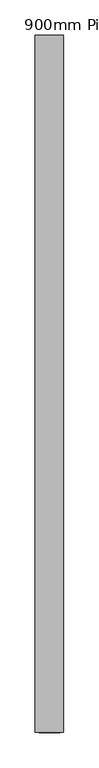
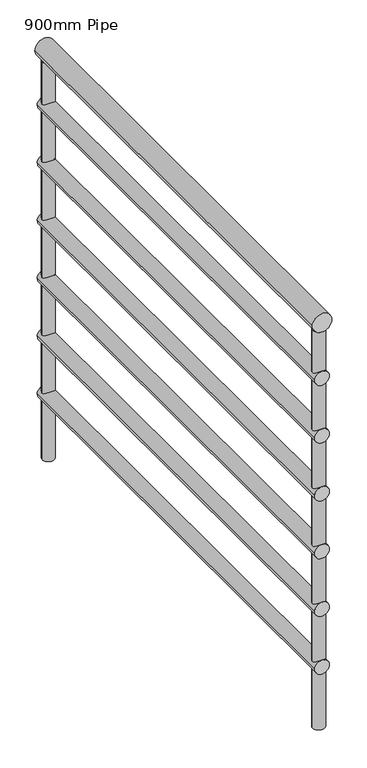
"""IFC4 building model written with IfcOpenShell, lengths in millimetres: railing geometry, 900mm Pipe."""

from ifc_helpers import new_model, si_unit, point, frame, frame_2d, origin, place, context, project, spatial, circle_curve, trimmed, segment, composite_curve, outline, extrude, source, transform, mapped, element, save


def railing_900mm_pipe_162ccb87(model_context):
    return source(origin(), model_context, "Body", "SweptSolid", [
        extrude(outline(composite_curve([segment(trimmed(circle_curve(frame_2d((11380.0, 9019.2181942)), 20.0), [point((11380.0, 9039.2181942))], [point((11380.0, 8999.2181942))], False, "CARTESIAN"), True, "CONTINUOUS"), segment(trimmed(circle_curve(frame_2d((11380.0, 9019.2181942)), 20.0), [point((11380.0, 8999.2181942))], [point((11380.0, 9039.2181942))], False, "CARTESIAN"), True, "CONTINUOUS")], self_intersect=False)), frame((0.0, -1684.6225097, 0.0), z_axis=(0.0, 1.0, 0.0), x_axis=(0.0, 0.0, 1.0)), (0.0, 0.0, 1.0), 982.6134508),
        extrude(outline(composite_curve([segment(trimmed(circle_curve(frame_2d((11260.0, 9019.2181942)), 15.0), [point((11260.0, 9034.2181942))], [point((11260.0, 9004.2181942))], False, "CARTESIAN"), True, "CONTINUOUS"), segment(trimmed(circle_curve(frame_2d((11260.0, 9019.2181942)), 15.0), [point((11260.0, 9004.2181942))], [point((11260.0, 9034.2181942))], False, "CARTESIAN"), True, "CONTINUOUS")], self_intersect=False)), frame((0.0, -1684.6225097, 0.0), z_axis=(0.0, 1.0, 0.0), x_axis=(0.0, 0.0, 1.0)), (0.0, 0.0, 1.0), 982.6134508),
        extrude(outline(composite_curve([segment(trimmed(circle_curve(frame_2d((11135.0, 9019.2181942)), 15.0), [point((11135.0, 9034.2181942))], [point((11135.0, 9004.2181942))], False, "CARTESIAN"), True, "CONTINUOUS"), segment(trimmed(circle_curve(frame_2d((11135.0, 9019.2181942)), 15.0), [point((11135.0, 9004.2181942))], [point((11135.0, 9034.2181942))], False, "CARTESIAN"), True, "CONTINUOUS")], self_intersect=False)), frame((0.0, -1684.6225097, 0.0), z_axis=(0.0, 1.0, 0.0), x_axis=(0.0, 0.0, 1.0)), (0.0, 0.0, 1.0), 982.6134508),
        extrude(outline(composite_curve([segment(trimmed(circle_curve(frame_2d((11010.0, 9019.2181942)), 15.0), [point((11010.0, 9034.2181942))], [point((11010.0, 9004.2181942))], False, "CARTESIAN"), True, "CONTINUOUS"), segment(trimmed(circle_curve(frame_2d((11010.0, 9019.2181942)), 15.0), [point((11010.0, 9004.2181942))], [point((11010.0, 9034.2181942))], False, "CARTESIAN"), True, "CONTINUOUS")], self_intersect=False)), frame((0.0, -1684.6225097, 0.0), z_axis=(0.0, 1.0, 0.0), x_axis=(0.0, 0.0, 1.0)), (0.0, 0.0, 1.0), 982.6134508),
        extrude(outline(composite_curve([segment(trimmed(circle_curve(frame_2d((10885.0, 9019.2181942)), 15.0), [point((10885.0, 9034.2181942))], [point((10885.0, 9004.2181942))], False, "CARTESIAN"), True, "CONTINUOUS"), segment(trimmed(circle_curve(frame_2d((10885.0, 9019.2181942)), 15.0), [point((10885.0, 9004.2181942))], [point((10885.0, 9034.2181942))], False, "CARTESIAN"), True, "CONTINUOUS")], self_intersect=False)), frame((0.0, -1684.6225097, 0.0), z_axis=(0.0, 1.0, 0.0), x_axis=(0.0, 0.0, 1.0)), (0.0, 0.0, 1.0), 982.6134508),
        extrude(outline(composite_curve([segment(trimmed(circle_curve(frame_2d((10760.0, 9019.2181942)), 15.0), [point((10760.0, 9034.2181942))], [point((10760.0, 9004.2181942))], False, "CARTESIAN"), True, "CONTINUOUS"), segment(trimmed(circle_curve(frame_2d((10760.0, 9019.2181942)), 15.0), [point((10760.0, 9004.2181942))], [point((10760.0, 9034.2181942))], False, "CARTESIAN"), True, "CONTINUOUS")], self_intersect=False)), frame((0.0, -1684.6225097, 0.0), z_axis=(0.0, 1.0, 0.0), x_axis=(0.0, 0.0, 1.0)), (0.0, 0.0, 1.0), 982.6134508),
        extrude(outline(composite_curve([segment(trimmed(circle_curve(frame_2d((10635.0, 9019.2181942)), 15.0), [point((10635.0, 9034.2181942))], [point((10635.0, 9004.2181942))], False, "CARTESIAN"), True, "CONTINUOUS"), segment(trimmed(circle_curve(frame_2d((10635.0, 9019.2181942)), 15.0), [point((10635.0, 9004.2181942))], [point((10635.0, 9034.2181942))], False, "CARTESIAN"), True, "CONTINUOUS")], self_intersect=False)), frame((0.0, -1684.6225097, 0.0), z_axis=(0.0, 1.0, 0.0), x_axis=(0.0, 0.0, 1.0)), (0.0, 0.0, 1.0), 982.6134508),
        extrude(outline(composite_curve([segment(trimmed(circle_curve(frame_2d((9019.2181942, -1672.1225097)), 12.5), [point((9031.7181942, -1672.1225097))], [point((9006.7181942, -1672.1225097))], False, "CARTESIAN"), True, "CONTINUOUS"), segment(trimmed(circle_curve(frame_2d((9019.2181942, -1672.1225097)), 12.5), [point((9006.7181942, -1672.1225097))], [point((9031.7181942, -1672.1225097))], False, "CARTESIAN"), True, "CONTINUOUS")], self_intersect=False)), frame((0.0, 0.0, 10500.0), z_axis=(0.0, 0.0, 1.0), x_axis=(1.0, 0.0, 0.0)), (0.0, 0.0, 1.0), 860.0),
        extrude(outline(composite_curve([segment(trimmed(circle_curve(frame_2d((9019.2181942, -714.5090589)), 12.5), [point((9031.7181942, -714.5090589))], [point((9006.7181942, -714.5090589))], False, "CARTESIAN"), True, "CONTINUOUS"), segment(trimmed(circle_curve(frame_2d((9019.2181942, -714.5090589)), 12.5), [point((9006.7181942, -714.5090589))], [point((9031.7181942, -714.5090589))], False, "CARTESIAN"), True, "CONTINUOUS")], self_intersect=False)), frame((0.0, 0.0, 10500.0), z_axis=(0.0, 0.0, 1.0), x_axis=(1.0, 0.0, 0.0)), (0.0, 0.0, 1.0), 860.0),
    ])


if __name__ == "__main__":
    model = new_model("IFC4")
    model_context = context("Model", 3, world=origin())
    ifc_project = project(units=[si_unit("LENGTHUNIT", "METRE", prefix="MILLI")], contexts=[model_context])
    site = spatial("IfcSite", under=ifc_project)
    building = spatial("IfcBuilding", under=site)
    placement = place(None, origin())
    railing_900mm_pipe_shape = railing_900mm_pipe_162ccb87(model_context)
    element("IfcRailing", 1, ObjectType="900mm Pipe", at=placement, inside=building, context=model_context, shape_type="MappedRepresentation", body=[
        mapped(railing_900mm_pipe_shape, transform((0.0, 0.0, 0.0), x_axis=(1.0, 0.0, 0.0), y_axis=(0.0, 1.0, 0.0), z_axis=(0.0, 0.0, 1.0))),
    ])
    save(model, "model.ifc")
